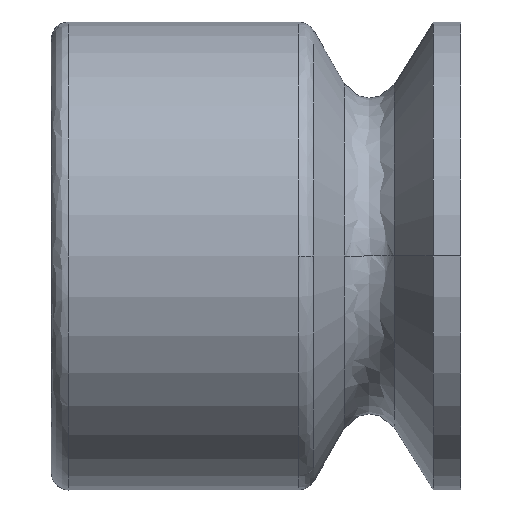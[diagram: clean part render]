
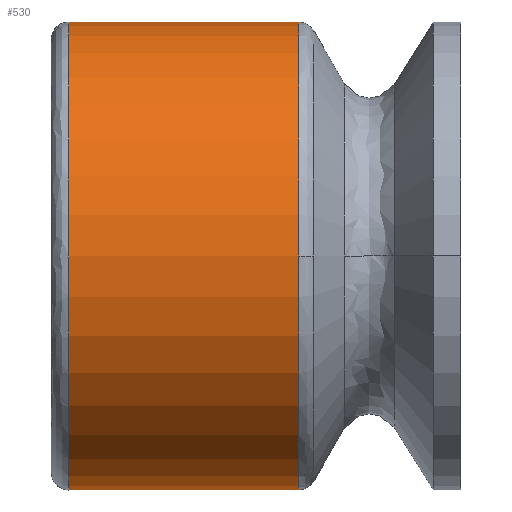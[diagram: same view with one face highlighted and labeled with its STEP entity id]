
A CAD part, left-side view. The second image highlights one B-rep face of the part: STEP entity #530.
In plain terms, the highlighted cylindrical face has radius 4 mm (diameter 8 mm), a partial arc.
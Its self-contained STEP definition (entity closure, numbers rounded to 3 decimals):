
#17 = DIRECTION ( 'NONE',  ( 0., 1., 0. ) ) ;
#89 = ORIENTED_EDGE ( 'NONE', *, *, #253, .F. ) ;
#99 = VERTEX_POINT ( 'NONE', #879 ) ;
#126 = DIRECTION ( 'NONE',  ( 0., 0., 1. ) ) ;
#134 = EDGE_CURVE ( 'NONE', #1397, #206, #487, .T. ) ;
#136 = CIRCLE ( 'NONE', #738, 4. ) ;
#178 = EDGE_CURVE ( 'NONE', #293, #1397, #1291, .T. ) ;
#192 = DIRECTION ( 'NONE',  ( 0., 1., 0. ) ) ;
#206 = VERTEX_POINT ( 'NONE', #655 ) ;
#253 = EDGE_CURVE ( 'NONE', #606, #293, #136, .T. ) ;
#275 = CIRCLE ( 'NONE', #1340, 4. ) ;
#293 = VERTEX_POINT ( 'NONE', #681 ) ;
#445 = AXIS2_PLACEMENT_3D ( 'NONE', #944, #630, #728 ) ;
#481 = AXIS2_PLACEMENT_3D ( 'NONE', #644, #17, #126 ) ;
#487 = CIRCLE ( 'NONE', #445, 4. ) ;
#512 = CARTESIAN_POINT ( 'NONE',  ( 0., -4.23, -4. ) ) ;
#530 = ADVANCED_FACE ( 'NONE', ( #1286 ), #1185, .T. ) ;
#597 = CARTESIAN_POINT ( 'NONE',  ( -4., -4.23, 0. ) ) ;
#606 = VERTEX_POINT ( 'NONE', #597 ) ;
#630 = DIRECTION ( 'NONE',  ( 0., 1., 0. ) ) ;
#640 = ORIENTED_EDGE ( 'NONE', *, *, #1048, .T. ) ;
#644 = CARTESIAN_POINT ( 'NONE',  ( 0., -4.23, 0. ) ) ;
#648 = CARTESIAN_POINT ( 'NONE',  ( 0., -4.23, 4. ) ) ;
#655 = CARTESIAN_POINT ( 'NONE',  ( 0., -0.3, 4. ) ) ;
#681 = CARTESIAN_POINT ( 'NONE',  ( 0., -4.23, -4. ) ) ;
#700 = VECTOR ( 'NONE', #192, 1000. ) ;
#711 = ORIENTED_EDGE ( 'NONE', *, *, #1384, .F. ) ;
#728 = DIRECTION ( 'NONE',  ( -1., 0., 0. ) ) ;
#738 = AXIS2_PLACEMENT_3D ( 'NONE', #1341, #781, #1126 ) ;
#754 = DIRECTION ( 'NONE',  ( 0., 1., 0. ) ) ;
#781 = DIRECTION ( 'NONE',  ( 0., -1., 0. ) ) ;
#837 = CARTESIAN_POINT ( 'NONE',  ( 0., -4.23, 0. ) ) ;
#853 = ORIENTED_EDGE ( 'NONE', *, *, #178, .F. ) ;
#879 = CARTESIAN_POINT ( 'NONE',  ( 0., -4.23, 4. ) ) ;
#935 = EDGE_LOOP ( 'NONE', ( #853, #89, #711, #640, #1049 ) ) ;
#944 = CARTESIAN_POINT ( 'NONE',  ( 0., -0.3, 0. ) ) ;
#956 = LINE ( 'NONE', #648, #700 ) ;
#995 = VECTOR ( 'NONE', #754, 1000. ) ;
#1048 = EDGE_CURVE ( 'NONE', #99, #206, #956, .T. ) ;
#1049 = ORIENTED_EDGE ( 'NONE', *, *, #134, .F. ) ;
#1053 = DIRECTION ( 'NONE',  ( 0., 0., -1. ) ) ;
#1126 = DIRECTION ( 'NONE',  ( 0., 0., -1. ) ) ;
#1149 = CARTESIAN_POINT ( 'NONE',  ( 0., -0.3, -4. ) ) ;
#1185 = CYLINDRICAL_SURFACE ( 'NONE', #481, 4. ) ;
#1258 = DIRECTION ( 'NONE',  ( 0., -1., 0. ) ) ;
#1286 = FACE_OUTER_BOUND ( 'NONE', #935, .T. ) ;
#1291 = LINE ( 'NONE', #512, #995 ) ;
#1340 = AXIS2_PLACEMENT_3D ( 'NONE', #837, #1258, #1053 ) ;
#1341 = CARTESIAN_POINT ( 'NONE',  ( 0., -4.23, 0. ) ) ;
#1384 = EDGE_CURVE ( 'NONE', #99, #606, #275, .T. ) ;
#1397 = VERTEX_POINT ( 'NONE', #1149 ) ;
